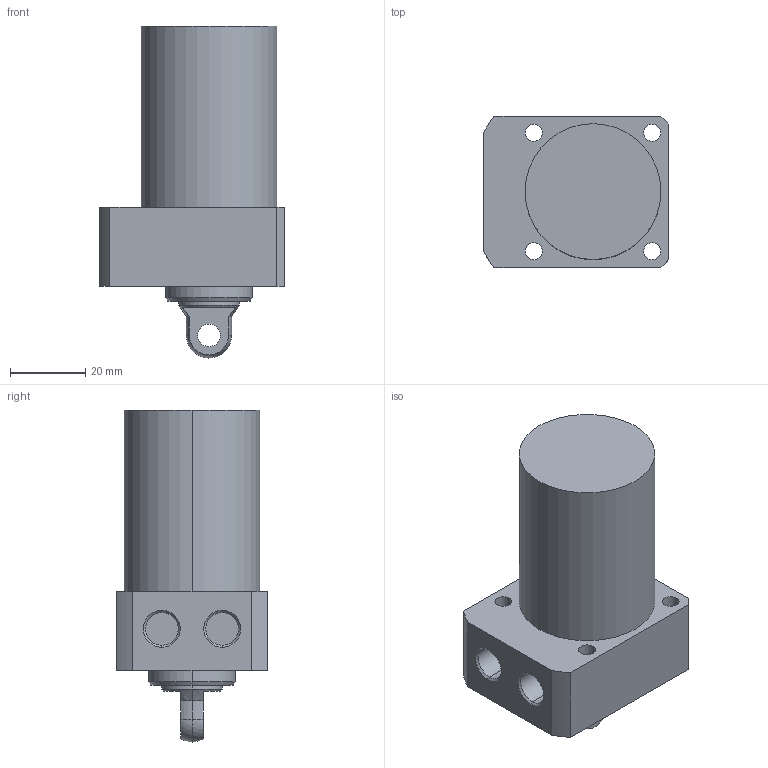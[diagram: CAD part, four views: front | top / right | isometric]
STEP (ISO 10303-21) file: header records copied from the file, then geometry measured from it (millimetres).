
FILE_DESCRIPTION (( 'STEP AP203' ), '1' );
FILE_NAME ('CLLR036-CP-40.STEP', '2017-05-10T09:00:49', ( '' ), ( '' ), 'SwSTEP 2.0', 'SolidWorks 2015', '' );
FILE_SCHEMA (( 'CONFIG_CONTROL_DESIGN' ));
Length unit declared in the file: millimetre
Products named in the file (1): CLLR036-CP-40
Bounding box: 49 x 40 x 88 mm (x, y, z)
Volume: 89403.2 mm3; surface area: 15452.5 mm2
Topology: 1 solids, 1 shells, 57 faces, 135 edges, 87 vertices
Faces by surface type: cylinder 29, plane 18, cone 8, sphere 2
Entity records: 1770 total; most frequent: DIRECTION 319, CARTESIAN_POINT 292, ORIENTED_EDGE 270, EDGE_CURVE 135, AXIS2_PLACEMENT_3D 130, VERTEX_POINT 87, EDGE_LOOP 74, CIRCLE 72
